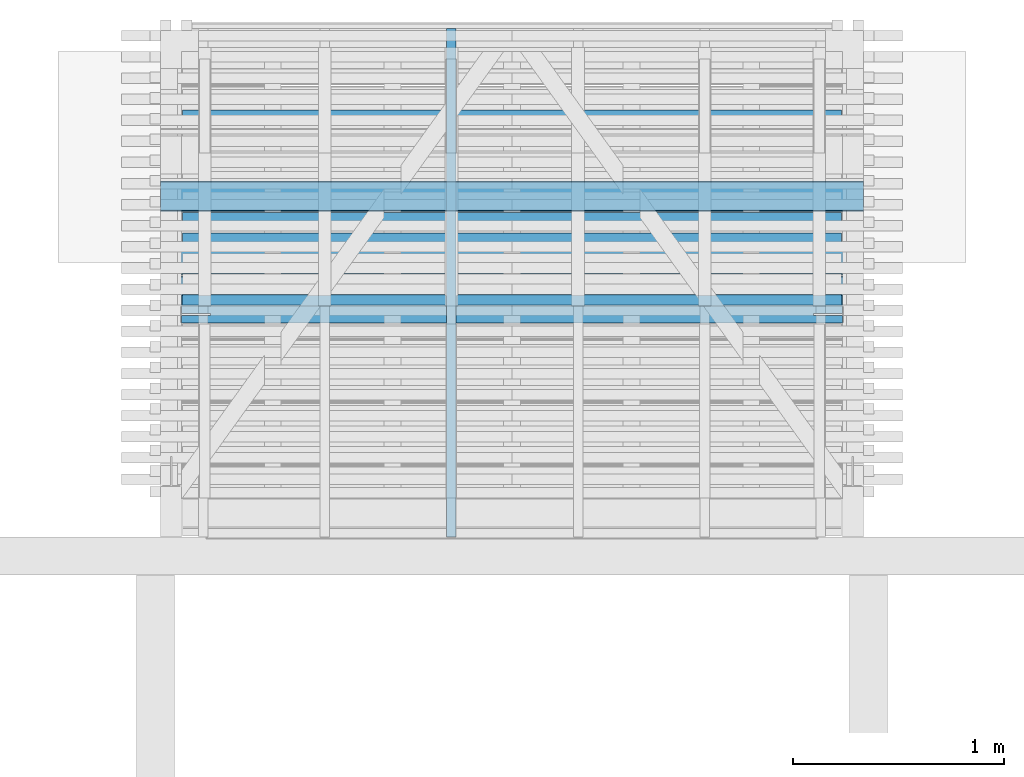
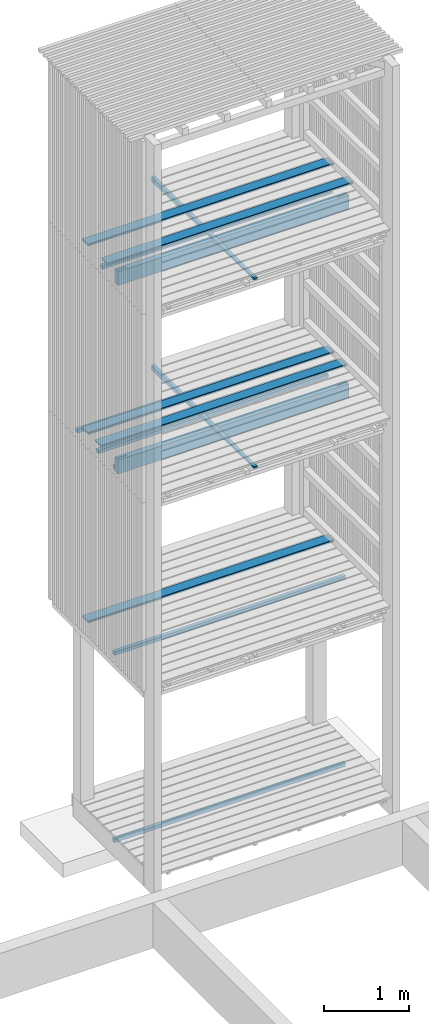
# One storey, part 147 of 182: 15 beams.
"""IFC2X3 building model written with IfcOpenShell, lengths in metres."""

from ifc_helpers import new_model, si_unit, frame, origin, place, context, project, spatial, faceted_brep, element, save


model = new_model("IFC2X3")

# Units and contexts
model_context = context("Model", 3, precision=1e-06, world=origin())
ifc_project = project(units=[si_unit("LENGTHUNIT", "METRE"), si_unit("PLANEANGLEUNIT", "RADIAN")], contexts=[model_context])

# Site, building, storey
site = spatial("IfcSite", under=ifc_project, CompositionType="ELEMENT")
building = spatial("IfcBuilding", under=site, CompositionType="ELEMENT")
storey = spatial("IfcBuildingStorey", under=building, Name="vs", CompositionType="ELEMENT", Elevation=-0.85)

# Beams
placement = place(None, origin())
beam_1_placement = place(placement, frame((34.4329999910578, 10.470077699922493, 5.384400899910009), z_axis=(0.0, 0.0, 1.0), x_axis=(0.0, 1.0, 0.0)))
element("IfcBeam", 1, at=beam_1_placement, inside=storey, Name="Calage", context=model_context, shape_type="Brep", body=[
    faceted_brep([(2.410000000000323, -0.022499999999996, -0.035599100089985), (0.0, -0.022499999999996, 0.012600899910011), (0.0, 0.022500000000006, 0.012600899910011), (2.410000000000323, 0.022500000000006, -0.035599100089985), (0.0, 0.022500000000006, 0.035599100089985), (0.0, 0.022500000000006, 0.012600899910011), (0.0, -0.022499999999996, 0.012600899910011), (0.0, -0.022499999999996, 0.035599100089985), (2.410000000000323, 0.022500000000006, -0.035599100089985), (0.0, 0.022500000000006, 0.012600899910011), (0.0, 0.022500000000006, 0.035599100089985), (2.410000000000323, 0.022500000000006, 0.035599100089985), (2.410000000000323, -0.022499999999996, 0.035599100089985), (0.0, -0.022499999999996, 0.035599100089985), (0.0, -0.022499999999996, 0.012600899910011), (2.410000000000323, -0.022499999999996, -0.035599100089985), (2.410000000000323, 0.022500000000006, 0.035599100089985), (0.0, 0.022500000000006, 0.035599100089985), (0.0, -0.022499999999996, 0.035599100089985), (2.410000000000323, -0.022499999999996, 0.035599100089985), (2.410000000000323, 0.022500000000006, -0.035599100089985), (2.410000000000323, 0.022500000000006, 0.035599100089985), (2.410000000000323, -0.022499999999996, 0.035599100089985), (2.410000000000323, -0.022499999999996, -0.035599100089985)], [[[0, 1, 2, 3]], [[4, 5, 6, 7]], [[8, 9, 10, 11]], [[12, 13, 14, 15]], [[16, 17, 18, 19]], [[20, 21, 22, 23]]]),
])
beam_2_placement = place(placement, frame((33.154999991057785, 11.590077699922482, -0.164999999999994), z_axis=(0.0, 0.0, 1.0), x_axis=(1.0, 0.0, 0.0)))
element("IfcBeam", 2, at=beam_2_placement, inside=storey, Name="Ligneul", context=model_context, shape_type="Brep", body=[
    faceted_brep([(4e-15, -0.024999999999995, 0.025), (4e-15, -0.024999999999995, -0.025), (3.129999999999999, -0.024999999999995, -0.025), (3.129999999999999, -0.024999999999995, 0.025), (4e-15, 0.025000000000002, 0.025), (4e-15, -0.024999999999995, 0.025), (3.129999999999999, -0.024999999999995, 0.025), (3.129999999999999, 0.025000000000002, 0.025), (4e-15, -0.024999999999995, 0.025), (4e-15, 0.025000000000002, 0.025), (4e-15, 0.025000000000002, -0.025), (4e-15, -0.024999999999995, -0.025), (4e-15, 0.025000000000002, -0.025), (4e-15, 0.025000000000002, 0.025), (3.129999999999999, 0.025000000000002, 0.025), (3.129999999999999, 0.025000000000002, -0.025), (3.129999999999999, -0.024999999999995, -0.025), (4e-15, -0.024999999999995, -0.025), (4e-15, 0.025000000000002, -0.025), (3.129999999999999, 0.025000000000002, -0.025), (3.129999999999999, -0.024999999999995, 0.025), (3.129999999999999, -0.024999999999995, -0.025), (3.129999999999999, 0.025000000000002, -0.025), (3.129999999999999, 0.025000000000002, 0.025)], [[[0, 1, 2, 3]], [[4, 5, 6, 7]], [[8, 9, 10, 11]], [[12, 13, 14, 15]], [[16, 17, 18, 19]], [[20, 21, 22, 23]]]),
])
beam_3_placement = place(placement, frame((36.38499999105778, 11.78457769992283, 5.433499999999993), z_axis=(0.0, 0.0, 1.0), x_axis=(-1.0, -8e-15, 0.0)))
element("IfcBeam", 3, at=beam_3_placement, inside=storey, Name="Caillebotis", context=model_context, shape_type="Brep", body=[
    faceted_brep([(3.329999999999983, -0.072500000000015, -0.0135), (3.329999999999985, 0.072499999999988, -0.0135), (3.329999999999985, 0.072499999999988, 0.0085), (3.329999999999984, 0.067499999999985, 0.0135), (3.329999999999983, -0.067500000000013, 0.0135), (3.329999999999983, -0.072500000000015, 0.008500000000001), (-1.5e-14, -0.072499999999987, 0.008500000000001), (-1.5e-14, -0.067499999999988, 0.0135), (-1.4e-14, 0.067500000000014, 0.0135), (-1.4e-14, 0.072500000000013, 0.0085), (-1.4e-14, 0.072500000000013, -0.0135), (-1.5e-14, -0.072499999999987, -0.0135), (3.329999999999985, 0.072499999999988, 0.0085), (3.329999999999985, 0.072499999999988, -0.0135), (-1.4e-14, 0.072500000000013, -0.0135), (-1.4e-14, 0.072500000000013, 0.0085), (3.329999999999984, 0.067499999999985, 0.0135), (3.329999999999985, 0.072499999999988, 0.0085), (-1.4e-14, 0.072500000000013, 0.0085), (-1.4e-14, 0.067500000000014, 0.0135), (3.329999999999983, -0.067500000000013, 0.0135), (3.329999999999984, 0.067499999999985, 0.0135), (-1.4e-14, 0.067500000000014, 0.0135), (-1.5e-14, -0.067499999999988, 0.0135), (3.329999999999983, -0.072500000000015, 0.008500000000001), (3.329999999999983, -0.067500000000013, 0.0135), (-1.5e-14, -0.067499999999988, 0.0135), (-1.5e-14, -0.072499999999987, 0.008500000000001), (3.329999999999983, -0.072500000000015, -0.0135), (3.329999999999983, -0.072500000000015, 0.008500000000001), (-1.5e-14, -0.072499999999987, 0.008500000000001), (-1.5e-14, -0.072499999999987, -0.0135), (-1.4e-14, 0.072500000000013, -0.0135), (3.329999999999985, 0.072499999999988, -0.0135), (3.329999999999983, -0.072500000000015, -0.0135), (-1.5e-14, -0.072499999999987, -0.0135)], [[[0, 1, 2, 3, 4, 5]], [[6, 7, 8, 9, 10, 11]], [[12, 13, 14, 15]], [[16, 17, 18, 19]], [[20, 21, 22, 23]], [[24, 25, 26, 27]], [[28, 29, 30, 31]], [[32, 33, 34, 35]]]),
])
beam_4_placement = place(placement, frame((33.154999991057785, 11.590077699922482, 2.517399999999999), z_axis=(0.0, 0.0, 1.0), x_axis=(1.0, 0.0, 0.0)))
element("IfcBeam", 4, at=beam_4_placement, inside=storey, Name="Ligneul", context=model_context, shape_type="Brep", body=[
    faceted_brep([(4e-15, -0.024999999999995, 0.025), (4e-15, -0.024999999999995, -0.025), (3.129999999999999, -0.024999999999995, -0.025), (3.129999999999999, -0.024999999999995, 0.025), (4e-15, 0.025000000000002, 0.025), (4e-15, -0.024999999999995, 0.025), (3.129999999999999, -0.024999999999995, 0.025), (3.129999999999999, 0.025000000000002, 0.025), (4e-15, -0.024999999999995, 0.025), (4e-15, 0.025000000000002, 0.025), (4e-15, 0.025000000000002, -0.025), (4e-15, -0.024999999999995, -0.025), (4e-15, 0.025000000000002, -0.025), (4e-15, 0.025000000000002, 0.025), (3.129999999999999, 0.025000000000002, 0.025), (3.129999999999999, 0.025000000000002, -0.025), (3.129999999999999, -0.024999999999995, -0.025), (4e-15, -0.024999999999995, -0.025), (4e-15, 0.025000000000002, -0.025), (3.129999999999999, 0.025000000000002, -0.025), (3.129999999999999, -0.024999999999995, 0.025), (3.129999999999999, -0.024999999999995, -0.025), (3.129999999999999, 0.025000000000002, -0.025), (3.129999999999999, 0.025000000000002, 0.025)], [[[0, 1, 2, 3]], [[4, 5, 6, 7]], [[8, 9, 10, 11]], [[12, 13, 14, 15]], [[16, 17, 18, 19]], [[20, 21, 22, 23]]]),
])
beam_5_placement = place(placement, frame((36.38499999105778, 12.084577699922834, 2.733499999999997), z_axis=(0.0, 0.0, 1.0), x_axis=(-1.0, -1e-14, 0.0)))
element("IfcBeam", 5, at=beam_5_placement, inside=storey, Name="Caillebotis", context=model_context, shape_type="Brep", body=[
    faceted_brep([(3.329999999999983, -0.072500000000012, -0.013499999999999), (3.329999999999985, 0.072499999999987, -0.013499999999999), (3.329999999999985, 0.072499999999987, 0.0085), (3.329999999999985, 0.067499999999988, 0.013500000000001), (3.329999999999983, -0.067500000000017, 0.013500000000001), (3.329999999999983, -0.072500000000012, 0.008500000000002), (-1.5e-14, -0.072499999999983, 0.008500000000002), (-1.5e-14, -0.067499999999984, 0.013500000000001), (-1.4e-14, 0.067500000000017, 0.0135), (-1.4e-14, 0.072500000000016, 0.008500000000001), (-1.4e-14, 0.072500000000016, -0.013499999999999), (-1.5e-14, -0.072499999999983, -0.013499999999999), (3.329999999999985, 0.072499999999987, 0.0085), (3.329999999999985, 0.072499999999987, -0.013499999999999), (-1.4e-14, 0.072500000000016, -0.013499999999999), (-1.4e-14, 0.072500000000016, 0.008500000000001), (3.329999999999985, 0.067499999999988, 0.013500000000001), (3.329999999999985, 0.072499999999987, 0.0085), (-1.4e-14, 0.072500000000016, 0.008500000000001), (-1.4e-14, 0.067500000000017, 0.0135), (3.329999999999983, -0.067500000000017, 0.013500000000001), (3.329999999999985, 0.067499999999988, 0.013500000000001), (-1.4e-14, 0.067500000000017, 0.0135), (-1.5e-14, -0.067499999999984, 0.013500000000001), (3.329999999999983, -0.072500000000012, 0.008500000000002), (3.329999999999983, -0.067500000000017, 0.013500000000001), (-1.5e-14, -0.067499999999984, 0.013500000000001), (-1.5e-14, -0.072499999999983, 0.008500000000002), (3.329999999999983, -0.072500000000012, -0.013499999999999), (3.329999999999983, -0.072500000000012, 0.008500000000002), (-1.5e-14, -0.072499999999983, 0.008500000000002), (-1.5e-14, -0.072499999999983, -0.013499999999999), (-1.4e-14, 0.072500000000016, -0.013499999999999), (3.329999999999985, 0.072499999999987, -0.013499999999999), (3.329999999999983, -0.072500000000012, -0.013499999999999), (-1.5e-14, -0.072499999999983, -0.013499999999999)], [[[0, 1, 2, 3, 4, 5]], [[6, 7, 8, 9, 10, 11]], [[12, 13, 14, 15]], [[16, 17, 18, 19]], [[20, 21, 22, 23]], [[24, 25, 26, 27]], [[28, 29, 30, 31]], [[32, 33, 34, 35]]]),
])
beam_6_placement = place(placement, frame((36.27999999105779, 11.595077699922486, 5.167399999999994), z_axis=(0.0, 0.0, 1.0), x_axis=(-1.0, 0.0, 0.0)))
element("IfcBeam", 6, at=beam_6_placement, inside=storey, Name="Bardage", context=model_context, shape_type="Brep", body=[
    faceted_brep([(-3e-15, 0.024999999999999, -0.025), (-3e-15, -0.025000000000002, -0.025), (-3e-15, -0.025000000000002, 0.025), (-3e-15, 0.024999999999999, 0.025), (3.120000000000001, -0.025000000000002, 0.025), (3.120000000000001, -0.025000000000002, -0.025), (3.120000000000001, 0.025000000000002, -0.025), (3.120000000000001, 0.025000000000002, 0.025), (3.120000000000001, -0.025000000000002, -0.025), (3.120000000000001, -0.025000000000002, 0.025), (-3e-15, -0.025000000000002, 0.025), (-3e-15, -0.025000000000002, -0.025), (3.120000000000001, 0.025000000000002, -0.025), (3.120000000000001, -0.025000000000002, -0.025), (-3e-15, -0.025000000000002, -0.025), (-3e-15, 0.024999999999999, -0.025), (3.120000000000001, 0.025000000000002, 0.025), (3.120000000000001, 0.025000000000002, -0.025), (-3e-15, 0.024999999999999, -0.025), (-3e-15, 0.024999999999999, 0.025), (3.120000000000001, -0.025000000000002, 0.025), (3.120000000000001, 0.025000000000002, 0.025), (-3e-15, 0.024999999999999, 0.025), (-3e-15, -0.025000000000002, 0.025)], [[[0, 1, 2, 3]], [[4, 5, 6, 7]], [[8, 9, 10, 11]], [[12, 13, 14, 15]], [[16, 17, 18, 19]], [[20, 21, 22, 23]]]),
])
beam_7_placement = place(placement, frame((36.28499999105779, 11.525077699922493, 5.239999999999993), z_axis=(0.0, 0.0, 1.0), x_axis=(-1.0, -2e-15, 0.0)))
element("IfcBeam", 7, at=beam_7_placement, inside=storey, Name="Sommier", context=model_context, shape_type="Brep", body=[
    faceted_brep([(0.137000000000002, -0.003999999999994, -0.100000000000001), (1e-15, -0.003999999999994, -0.100000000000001), (1e-15, -0.003999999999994, 0.100000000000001), (0.137000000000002, -0.003999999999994, 0.100000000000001), (0.137000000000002, 0.004000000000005, -0.100000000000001), (0.137000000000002, -0.003999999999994, -0.100000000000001), (0.137000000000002, -0.003999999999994, 0.100000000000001), (0.137000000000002, 0.004000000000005, 0.100000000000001), (1e-15, 0.004000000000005, -0.100000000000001), (0.137000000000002, 0.004000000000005, -0.100000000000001), (0.137000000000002, 0.004000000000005, 0.100000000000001), (1e-15, 0.004000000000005, 0.100000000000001), (1e-15, -0.003999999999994, 0.100000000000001), (1e-15, -0.003999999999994, -0.100000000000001), (1e-15, -0.039999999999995, -0.100000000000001), (1e-15, -0.039999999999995, 0.100000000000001), (1e-15, 0.040000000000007, 0.100000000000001), (1e-15, 0.040000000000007, -0.100000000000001), (1e-15, 0.004000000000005, -0.100000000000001), (1e-15, 0.004000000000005, 0.100000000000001), (2.992999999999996, 0.004000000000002, 0.100000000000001), (2.992999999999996, 0.004000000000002, -0.100000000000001), (3.129999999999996, 0.004000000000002, -0.1), (3.129999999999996, 0.004000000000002, 0.100000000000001), (2.992999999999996, -0.004000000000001, 0.100000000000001), (2.992999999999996, -0.004000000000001, -0.100000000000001), (2.992999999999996, 0.004000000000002, -0.100000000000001), (2.992999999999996, 0.004000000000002, 0.100000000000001), (3.129999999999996, -0.004000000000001, 0.100000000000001), (3.129999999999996, -0.004000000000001, -0.100000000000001), (2.992999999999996, -0.004000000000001, -0.100000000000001), (2.992999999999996, -0.004000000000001, 0.100000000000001), (3.129999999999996, 0.004000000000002, 0.100000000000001), (3.129999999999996, 0.004000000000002, -0.1), (3.129999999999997, 0.04, -0.1), (3.129999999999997, 0.04, 0.100000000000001), (3.129999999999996, -0.040000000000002, 0.100000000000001), (3.129999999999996, -0.040000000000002, -0.1), (3.129999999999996, -0.004000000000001, -0.100000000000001), (3.129999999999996, -0.004000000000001, 0.100000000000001), (2.992999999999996, 0.004000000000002, 0.100000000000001), (3.129999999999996, 0.004000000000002, 0.100000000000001), (3.129999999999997, 0.04, 0.100000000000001), (1e-15, 0.040000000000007, 0.100000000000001), (1e-15, 0.004000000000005, 0.100000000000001), (0.137000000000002, 0.004000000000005, 0.100000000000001), (0.137000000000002, -0.003999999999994, 0.100000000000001), (1e-15, -0.003999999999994, 0.100000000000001), (1e-15, -0.039999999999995, 0.100000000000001), (3.129999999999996, -0.040000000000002, 0.100000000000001), (3.129999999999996, -0.004000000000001, 0.100000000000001), (2.992999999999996, -0.004000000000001, 0.100000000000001), (1e-15, -0.039999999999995, -0.100000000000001), (1e-15, -0.003999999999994, -0.100000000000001), (0.137000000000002, -0.003999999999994, -0.100000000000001), (0.137000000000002, 0.004000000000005, -0.100000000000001), (1e-15, 0.004000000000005, -0.100000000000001), (1e-15, 0.040000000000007, -0.100000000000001), (3.129999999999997, 0.04, -0.1), (3.129999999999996, 0.004000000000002, -0.1), (2.992999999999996, 0.004000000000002, -0.100000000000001), (2.992999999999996, -0.004000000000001, -0.100000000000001), (3.129999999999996, -0.004000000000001, -0.100000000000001), (3.129999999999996, -0.040000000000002, -0.1), (1e-15, -0.039999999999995, -0.100000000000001), (3.129999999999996, -0.040000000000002, -0.1), (3.129999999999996, -0.040000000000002, 0.100000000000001), (1e-15, -0.039999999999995, 0.100000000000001), (1e-15, 0.040000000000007, 0.100000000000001), (3.129999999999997, 0.04, 0.100000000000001), (3.129999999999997, 0.04, -0.1), (1e-15, 0.040000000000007, -0.100000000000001)], [[[0, 1, 2, 3]], [[4, 5, 6, 7]], [[8, 9, 10, 11]], [[12, 13, 14, 15]], [[16, 17, 18, 19]], [[20, 21, 22, 23]], [[24, 25, 26, 27]], [[28, 29, 30, 31]], [[32, 33, 34, 35]], [[36, 37, 38, 39]], [[40, 41, 42, 43, 44, 45, 46, 47, 48, 49, 50, 51]], [[52, 53, 54, 55, 56, 57, 58, 59, 60, 61, 62, 63]], [[64, 65, 66, 67]], [[68, 69, 70, 71]]]),
])
beam_8_placement = place(placement, frame((36.384999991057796, 11.634577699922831, 8.13349999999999), z_axis=(0.0, 0.0, 1.0), x_axis=(-1.0, -1e-14, 0.0)))
element("IfcBeam", 8, at=beam_8_placement, inside=storey, Name="Caillebotis", context=model_context, shape_type="Brep", body=[
    faceted_brep([(3.329999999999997, -0.072500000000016, -0.013500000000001), (3.329999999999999, 0.072499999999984, -0.013500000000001), (3.329999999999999, 0.072499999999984, 0.008499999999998), (3.329999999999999, 0.067499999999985, 0.013499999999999), (3.329999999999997, -0.067500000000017, 0.013499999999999), (3.329999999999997, -0.072500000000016, 0.0085), (-1e-15, -0.072499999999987, 0.0085), (-1e-15, -0.067499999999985, 0.013499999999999), (1e-15, 0.067500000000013, 0.013499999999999), (1e-15, 0.072500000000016, 0.008499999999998), (1e-15, 0.072500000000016, -0.013500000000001), (-1e-15, -0.072499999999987, -0.013500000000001), (3.329999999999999, 0.072499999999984, 0.008499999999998), (3.329999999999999, 0.072499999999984, -0.013500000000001), (1e-15, 0.072500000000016, -0.013500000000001), (1e-15, 0.072500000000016, 0.008499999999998), (3.329999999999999, 0.067499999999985, 0.013499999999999), (3.329999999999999, 0.072499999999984, 0.008499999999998), (1e-15, 0.072500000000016, 0.008499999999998), (1e-15, 0.067500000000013, 0.013499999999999), (3.329999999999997, -0.067500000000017, 0.013499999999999), (3.329999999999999, 0.067499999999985, 0.013499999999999), (1e-15, 0.067500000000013, 0.013499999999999), (-1e-15, -0.067499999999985, 0.013499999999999), (3.329999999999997, -0.072500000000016, 0.0085), (3.329999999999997, -0.067500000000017, 0.013499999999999), (-1e-15, -0.067499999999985, 0.013499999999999), (-1e-15, -0.072499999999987, 0.0085), (3.329999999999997, -0.072500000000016, -0.013500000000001), (3.329999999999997, -0.072500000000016, 0.0085), (-1e-15, -0.072499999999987, 0.0085), (-1e-15, -0.072499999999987, -0.013500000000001), (1e-15, 0.072500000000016, -0.013500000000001), (3.329999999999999, 0.072499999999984, -0.013500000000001), (3.329999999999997, -0.072500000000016, -0.013500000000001), (-1e-15, -0.072499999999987, -0.013500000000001)], [[[0, 1, 2, 3, 4, 5]], [[6, 7, 8, 9, 10, 11]], [[12, 13, 14, 15]], [[16, 17, 18, 19]], [[20, 21, 22, 23]], [[24, 25, 26, 27]], [[28, 29, 30, 31]], [[32, 33, 34, 35]]]),
])
beam_9_placement = place(placement, frame((36.27999999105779, 11.886327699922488, 7.86739999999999), z_axis=(0.0, 0.0, 1.0), x_axis=(-1.0, 0.0, 0.0)))
element("IfcBeam", 9, at=beam_9_placement, inside=storey, Name="Bardage", context=model_context, shape_type="Brep", body=[
    faceted_brep([(3.120000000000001, 0.024999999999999, -0.024999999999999), (3.120000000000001, 0.024999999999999, 0.025000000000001), (3.120000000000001, -0.024999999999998, 0.025000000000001), (3.120000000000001, -0.024999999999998, -0.024999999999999), (-3e-15, -0.025000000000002, -0.024999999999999), (-3e-15, -0.025000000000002, 0.025000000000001), (-3e-15, 0.024999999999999, 0.025000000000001), (-3e-15, 0.024999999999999, -0.024999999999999), (-3e-15, 0.024999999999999, -0.024999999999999), (-3e-15, 0.024999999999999, 0.025000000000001), (3.120000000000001, 0.024999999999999, 0.025000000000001), (3.120000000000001, 0.024999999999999, -0.024999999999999), (-3e-15, 0.024999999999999, 0.025000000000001), (-3e-15, -0.025000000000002, 0.025000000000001), (3.120000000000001, -0.024999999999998, 0.025000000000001), (3.120000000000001, 0.024999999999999, 0.025000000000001), (-3e-15, -0.025000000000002, 0.025000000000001), (-3e-15, -0.025000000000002, -0.024999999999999), (3.120000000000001, -0.024999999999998, -0.024999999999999), (3.120000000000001, -0.024999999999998, 0.025000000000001), (-3e-15, -0.025000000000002, -0.024999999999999), (-3e-15, 0.024999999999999, -0.024999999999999), (3.120000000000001, 0.024999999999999, -0.024999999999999), (3.120000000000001, -0.024999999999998, -0.024999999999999)], [[[0, 1, 2, 3]], [[4, 5, 6, 7]], [[8, 9, 10, 11]], [[12, 13, 14, 15]], [[16, 17, 18, 19]], [[20, 21, 22, 23]]]),
])
beam_10_placement = place(placement, frame((36.27999999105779, 12.468827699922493, 5.167399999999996), z_axis=(0.0, 0.0, 1.0), x_axis=(-1.0, 0.0, 0.0)))
element("IfcBeam", 10, at=beam_10_placement, inside=storey, Name="Bardage", context=model_context, shape_type="Brep", body=[
    faceted_brep([(3.120000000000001, 0.025000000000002, -0.025), (3.120000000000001, 0.025000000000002, 0.024999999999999), (3.120000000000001, -0.024999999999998, 0.024999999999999), (3.120000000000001, -0.024999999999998, -0.025), (-3e-15, -0.024999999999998, -0.025), (-3e-15, -0.024999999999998, 0.024999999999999), (-3e-15, 0.025000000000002, 0.024999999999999), (-3e-15, 0.025000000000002, -0.025), (-3e-15, 0.025000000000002, -0.025), (-3e-15, 0.025000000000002, 0.024999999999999), (3.120000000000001, 0.025000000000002, 0.024999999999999), (3.120000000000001, 0.025000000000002, -0.025), (-3e-15, 0.025000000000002, 0.024999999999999), (-3e-15, -0.024999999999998, 0.024999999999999), (3.120000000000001, -0.024999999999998, 0.024999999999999), (3.120000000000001, 0.025000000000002, 0.024999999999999), (-3e-15, -0.024999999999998, 0.024999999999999), (-3e-15, -0.024999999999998, -0.025), (3.120000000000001, -0.024999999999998, -0.025), (3.120000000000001, -0.024999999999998, 0.024999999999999), (-3e-15, -0.024999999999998, -0.025), (-3e-15, 0.025000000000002, -0.025), (3.120000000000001, 0.025000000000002, -0.025), (3.120000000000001, -0.024999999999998, -0.025)], [[[0, 1, 2, 3]], [[4, 5, 6, 7]], [[8, 9, 10, 11]], [[12, 13, 14, 15]], [[16, 17, 18, 19]], [[20, 21, 22, 23]]]),
])
beam_11_placement = place(placement, frame((36.27999999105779, 11.983411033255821, 5.167399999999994), z_axis=(0.0, 0.0, 1.0), x_axis=(-1.0, 0.0, 0.0)))
element("IfcBeam", 11, at=beam_11_placement, inside=storey, Name="Bardage", context=model_context, shape_type="Brep", body=[
    faceted_brep([(3.120000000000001, 0.024999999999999, -0.024999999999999), (3.120000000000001, 0.024999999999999, 0.025), (3.120000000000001, -0.025000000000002, 0.025), (3.120000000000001, -0.025000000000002, -0.024999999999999), (-3e-15, -0.025000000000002, -0.024999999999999), (-3e-15, -0.025000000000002, 0.025), (-3e-15, 0.024999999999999, 0.025), (-3e-15, 0.024999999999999, -0.024999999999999), (-3e-15, 0.024999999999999, -0.024999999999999), (-3e-15, 0.024999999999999, 0.025), (3.120000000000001, 0.024999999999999, 0.025), (3.120000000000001, 0.024999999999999, -0.024999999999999), (-3e-15, 0.024999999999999, 0.025), (-3e-15, -0.025000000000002, 0.025), (3.120000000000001, -0.025000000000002, 0.025), (3.120000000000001, 0.024999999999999, 0.025), (-3e-15, -0.025000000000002, 0.025), (-3e-15, -0.025000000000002, -0.024999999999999), (3.120000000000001, -0.025000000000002, -0.024999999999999), (3.120000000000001, -0.025000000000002, 0.025), (-3e-15, -0.025000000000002, -0.024999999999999), (-3e-15, 0.024999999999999, -0.024999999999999), (3.120000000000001, 0.024999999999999, -0.024999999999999), (3.120000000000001, -0.025000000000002, -0.024999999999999)], [[[0, 1, 2, 3]], [[4, 5, 6, 7]], [[8, 9, 10, 11]], [[12, 13, 14, 15]], [[16, 17, 18, 19]], [[20, 21, 22, 23]]]),
])
beam_12_placement = place(placement, frame((36.384999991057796, 12.084577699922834, 8.133499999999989), z_axis=(0.0, 0.0, 1.0), x_axis=(-1.0, -1e-14, 0.0)))
element("IfcBeam", 12, at=beam_12_placement, inside=storey, Name="Caillebotis", context=model_context, shape_type="Brep", body=[
    faceted_brep([(3.329999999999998, -0.072500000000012, -0.013499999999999), (3.329999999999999, 0.072499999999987, -0.013499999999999), (3.329999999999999, 0.072499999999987, 0.0085), (3.329999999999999, 0.067499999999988, 0.013500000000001), (3.329999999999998, -0.067500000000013, 0.013500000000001), (3.329999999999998, -0.072500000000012, 0.008500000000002), (-1e-15, -0.07249999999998, 0.008500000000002), (-1e-15, -0.067499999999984, 0.013500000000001), (1e-15, 0.067500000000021, 0.013500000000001), (1e-15, 0.072500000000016, 0.0085), (1e-15, 0.072500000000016, -0.013499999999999), (-1e-15, -0.07249999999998, -0.013499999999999), (3.329999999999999, 0.072499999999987, 0.0085), (3.329999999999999, 0.072499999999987, -0.013499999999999), (1e-15, 0.072500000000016, -0.013499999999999), (1e-15, 0.072500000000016, 0.0085), (3.329999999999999, 0.067499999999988, 0.013500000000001), (3.329999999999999, 0.072499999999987, 0.0085), (1e-15, 0.072500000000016, 0.0085), (1e-15, 0.067500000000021, 0.013500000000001), (3.329999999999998, -0.067500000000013, 0.013500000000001), (3.329999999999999, 0.067499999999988, 0.013500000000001), (1e-15, 0.067500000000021, 0.013500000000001), (-1e-15, -0.067499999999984, 0.013500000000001), (3.329999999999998, -0.072500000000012, 0.008500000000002), (3.329999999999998, -0.067500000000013, 0.013500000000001), (-1e-15, -0.067499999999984, 0.013500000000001), (-1e-15, -0.07249999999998, 0.008500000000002), (3.329999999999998, -0.072500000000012, -0.013499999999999), (3.329999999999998, -0.072500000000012, 0.008500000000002), (-1e-15, -0.07249999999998, 0.008500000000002), (-1e-15, -0.07249999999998, -0.013499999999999), (1e-15, 0.072500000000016, -0.013499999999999), (3.329999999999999, 0.072499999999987, -0.013499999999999), (3.329999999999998, -0.072500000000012, -0.013499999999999), (-1e-15, -0.07249999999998, -0.013499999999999)], [[[0, 1, 2, 3, 4, 5]], [[6, 7, 8, 9, 10, 11]], [[12, 13, 14, 15]], [[16, 17, 18, 19]], [[20, 21, 22, 23]], [[24, 25, 26, 27]], [[28, 29, 30, 31]], [[32, 33, 34, 35]]]),
])
beam_13_placement = place(placement, frame((36.38499999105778, 12.084577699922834, 5.433499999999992), z_axis=(0.0, 0.0, 1.0), x_axis=(-1.0, -1e-14, 0.0)))
element("IfcBeam", 13, at=beam_13_placement, inside=storey, Name="Caillebotis", context=model_context, shape_type="Brep", body=[
    faceted_brep([(3.329999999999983, -0.072500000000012, -0.013499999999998), (3.329999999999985, 0.072499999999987, -0.013499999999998), (3.329999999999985, 0.072499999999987, 0.008500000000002), (3.329999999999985, 0.067499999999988, 0.013500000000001), (3.329999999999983, -0.067500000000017, 0.013500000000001), (3.329999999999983, -0.072500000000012, 0.008500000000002), (-1.5e-14, -0.07249999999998, 0.008500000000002), (-1.5e-14, -0.067499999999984, 0.013500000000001), (-1.4e-14, 0.067500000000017, 0.013500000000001), (-1.4e-14, 0.072500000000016, 0.008500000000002), (-1.4e-14, 0.072500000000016, -0.013499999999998), (-1.5e-14, -0.07249999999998, -0.013499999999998), (3.329999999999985, 0.072499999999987, 0.008500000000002), (3.329999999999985, 0.072499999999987, -0.013499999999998), (-1.4e-14, 0.072500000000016, -0.013499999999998), (-1.4e-14, 0.072500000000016, 0.008500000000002), (3.329999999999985, 0.067499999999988, 0.013500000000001), (3.329999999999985, 0.072499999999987, 0.008500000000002), (-1.4e-14, 0.072500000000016, 0.008500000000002), (-1.4e-14, 0.067500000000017, 0.013500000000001), (3.329999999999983, -0.067500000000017, 0.013500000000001), (3.329999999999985, 0.067499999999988, 0.013500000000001), (-1.4e-14, 0.067500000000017, 0.013500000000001), (-1.5e-14, -0.067499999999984, 0.013500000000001), (3.329999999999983, -0.072500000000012, 0.008500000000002), (3.329999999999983, -0.067500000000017, 0.013500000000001), (-1.5e-14, -0.067499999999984, 0.013500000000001), (-1.5e-14, -0.07249999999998, 0.008500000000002), (3.329999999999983, -0.072500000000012, -0.013499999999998), (3.329999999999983, -0.072500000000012, 0.008500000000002), (-1.5e-14, -0.07249999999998, 0.008500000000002), (-1.5e-14, -0.07249999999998, -0.013499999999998), (-1.4e-14, 0.072500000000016, -0.013499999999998), (3.329999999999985, 0.072499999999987, -0.013499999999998), (3.329999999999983, -0.072500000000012, -0.013499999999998), (-1.5e-14, -0.07249999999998, -0.013499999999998)], [[[0, 1, 2, 3, 4, 5]], [[6, 7, 8, 9, 10, 11]], [[12, 13, 14, 15]], [[16, 17, 18, 19]], [[20, 21, 22, 23]], [[24, 25, 26, 27]], [[28, 29, 30, 31]], [[32, 33, 34, 35]]]),
])
beam_14_placement = place(placement, frame((36.28499999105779, 11.525077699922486, 7.93999999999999), z_axis=(0.0, 0.0, 1.0), x_axis=(-1.0, 0.0, 0.0)))
element("IfcBeam", 14, at=beam_14_placement, inside=storey, Name="Sommier", context=model_context, shape_type="Brep", body=[
    faceted_brep([(0.137000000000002, -0.004000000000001, -0.100000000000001), (1e-15, -0.004000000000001, -0.100000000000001), (1e-15, -0.004000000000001, 0.1), (0.137000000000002, -0.004000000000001, 0.1), (0.137000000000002, 0.003999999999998, -0.100000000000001), (0.137000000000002, -0.004000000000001, -0.100000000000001), (0.137000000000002, -0.004000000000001, 0.1), (0.137000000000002, 0.003999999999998, 0.1), (1e-15, 0.003999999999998, -0.100000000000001), (0.137000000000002, 0.003999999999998, -0.100000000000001), (0.137000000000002, 0.003999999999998, 0.1), (1e-15, 0.003999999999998, 0.1), (1e-15, -0.004000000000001, 0.1), (1e-15, -0.004000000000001, -0.100000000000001), (1e-15, -0.040000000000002, -0.100000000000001), (1e-15, -0.040000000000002, 0.1), (1e-15, 0.04, 0.1), (1e-15, 0.04, -0.100000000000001), (1e-15, 0.003999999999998, -0.100000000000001), (1e-15, 0.003999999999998, 0.1), (2.992999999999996, 0.004000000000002, 0.1), (2.992999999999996, 0.004000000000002, -0.100000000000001), (3.129999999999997, 0.004000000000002, -0.100000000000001), (3.129999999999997, 0.004000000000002, 0.1), (2.992999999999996, -0.004000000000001, 0.1), (2.992999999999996, -0.004000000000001, -0.100000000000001), (2.992999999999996, 0.004000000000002, -0.100000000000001), (2.992999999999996, 0.004000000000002, 0.1), (3.129999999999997, -0.004000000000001, 0.1), (3.129999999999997, -0.004000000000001, -0.100000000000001), (2.992999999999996, -0.004000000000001, -0.100000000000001), (2.992999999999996, -0.004000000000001, 0.1), (3.129999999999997, 0.004000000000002, 0.1), (3.129999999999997, 0.004000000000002, -0.100000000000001), (3.129999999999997, 0.040000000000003, -0.100000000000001), (3.129999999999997, 0.040000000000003, 0.1), (3.129999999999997, -0.040000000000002, 0.1), (3.129999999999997, -0.040000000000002, -0.100000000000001), (3.129999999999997, -0.004000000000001, -0.100000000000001), (3.129999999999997, -0.004000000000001, 0.1), (2.992999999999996, 0.004000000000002, 0.1), (3.129999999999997, 0.004000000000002, 0.1), (3.129999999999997, 0.040000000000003, 0.1), (1e-15, 0.04, 0.1), (1e-15, 0.003999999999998, 0.1), (0.137000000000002, 0.003999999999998, 0.1), (0.137000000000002, -0.004000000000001, 0.1), (1e-15, -0.004000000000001, 0.1), (1e-15, -0.040000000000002, 0.1), (3.129999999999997, -0.040000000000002, 0.1), (3.129999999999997, -0.004000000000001, 0.1), (2.992999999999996, -0.004000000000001, 0.1), (1e-15, -0.040000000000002, -0.100000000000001), (1e-15, -0.004000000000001, -0.100000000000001), (0.137000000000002, -0.004000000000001, -0.100000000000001), (0.137000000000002, 0.003999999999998, -0.100000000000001), (1e-15, 0.003999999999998, -0.100000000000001), (1e-15, 0.04, -0.100000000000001), (3.129999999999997, 0.040000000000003, -0.100000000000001), (3.129999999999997, 0.004000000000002, -0.100000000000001), (2.992999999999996, 0.004000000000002, -0.100000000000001), (2.992999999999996, -0.004000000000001, -0.100000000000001), (3.129999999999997, -0.004000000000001, -0.100000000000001), (3.129999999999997, -0.040000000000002, -0.100000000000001), (1e-15, -0.040000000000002, -0.100000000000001), (3.129999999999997, -0.040000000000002, -0.100000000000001), (3.129999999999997, -0.040000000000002, 0.1), (1e-15, -0.040000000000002, 0.1), (1e-15, 0.04, 0.1), (3.129999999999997, 0.040000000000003, 0.1), (3.129999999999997, 0.040000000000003, -0.100000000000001), (1e-15, 0.04, -0.100000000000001)], [[[0, 1, 2, 3]], [[4, 5, 6, 7]], [[8, 9, 10, 11]], [[12, 13, 14, 15]], [[16, 17, 18, 19]], [[20, 21, 22, 23]], [[24, 25, 26, 27]], [[28, 29, 30, 31]], [[32, 33, 34, 35]], [[36, 37, 38, 39]], [[40, 41, 42, 43, 44, 45, 46, 47, 48, 49, 50, 51]], [[52, 53, 54, 55, 56, 57, 58, 59, 60, 61, 62, 63]], [[64, 65, 66, 67]], [[68, 69, 70, 71]]]),
])
beam_15_placement = place(placement, frame((34.4329999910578, 10.470077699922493, 8.084400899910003), z_axis=(0.0, 0.0, 1.0), x_axis=(0.0, 1.0, 0.0)))
element("IfcBeam", 15, at=beam_15_placement, inside=storey, Name="Calage", context=model_context, shape_type="Brep", body=[
    faceted_brep([(2.410000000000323, -0.022499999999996, -0.035599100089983), (0.0, -0.022499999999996, 0.012600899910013), (0.0, 0.022500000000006, 0.012600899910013), (2.410000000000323, 0.022500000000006, -0.035599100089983), (0.0, 0.022500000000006, 0.035599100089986), (0.0, 0.022500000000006, 0.012600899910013), (0.0, -0.022499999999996, 0.012600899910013), (0.0, -0.022499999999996, 0.035599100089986), (2.410000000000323, 0.022500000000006, -0.035599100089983), (0.0, 0.022500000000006, 0.012600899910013), (0.0, 0.022500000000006, 0.035599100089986), (2.410000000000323, 0.022500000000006, 0.035599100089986), (2.410000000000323, -0.022499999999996, 0.035599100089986), (0.0, -0.022499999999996, 0.035599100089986), (0.0, -0.022499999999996, 0.012600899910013), (2.410000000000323, -0.022499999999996, -0.035599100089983), (2.410000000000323, 0.022500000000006, 0.035599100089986), (0.0, 0.022500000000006, 0.035599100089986), (0.0, -0.022499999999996, 0.035599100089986), (2.410000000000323, -0.022499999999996, 0.035599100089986), (2.410000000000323, 0.022500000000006, -0.035599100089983), (2.410000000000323, 0.022500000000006, 0.035599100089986), (2.410000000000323, -0.022499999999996, 0.035599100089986), (2.410000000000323, -0.022499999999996, -0.035599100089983)], [[[0, 1, 2, 3]], [[4, 5, 6, 7]], [[8, 9, 10, 11]], [[12, 13, 14, 15]], [[16, 17, 18, 19]], [[20, 21, 22, 23]]]),
])

save(model, "model.ifc")
